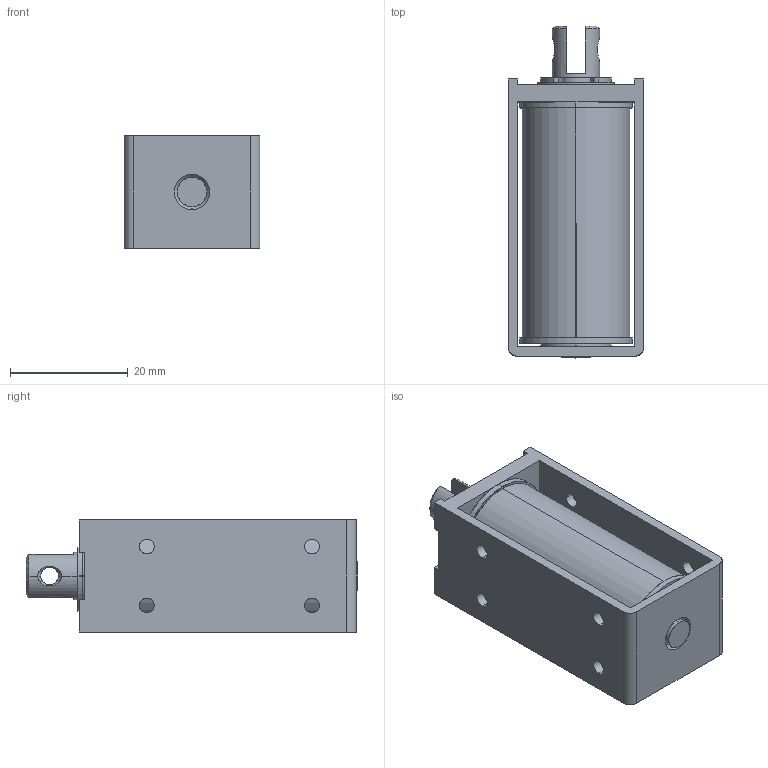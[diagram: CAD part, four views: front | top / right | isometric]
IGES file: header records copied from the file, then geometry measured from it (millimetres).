
Start section: SolidWorks IGES file using analytic representation for surfaces
Global section: file name: L:\カタログ\web用3Dデータ\CE0847\3D_CE0847\w_ce0847.IGS; native system: SolidWorks 2014; preprocessor: SolidWorks 2014; author: jiba; date: 140724.111310; units: millimetre
Bounding box: 23 x 56.3 x 19 mm (x, y, z)
Surface area: 10219 mm2 (no closed solid volume)
Topology: 0 solids, 0 shells, 133 faces, 2371 edges, 2371 vertices
Faces by surface type: revolution 80, bspline 53
